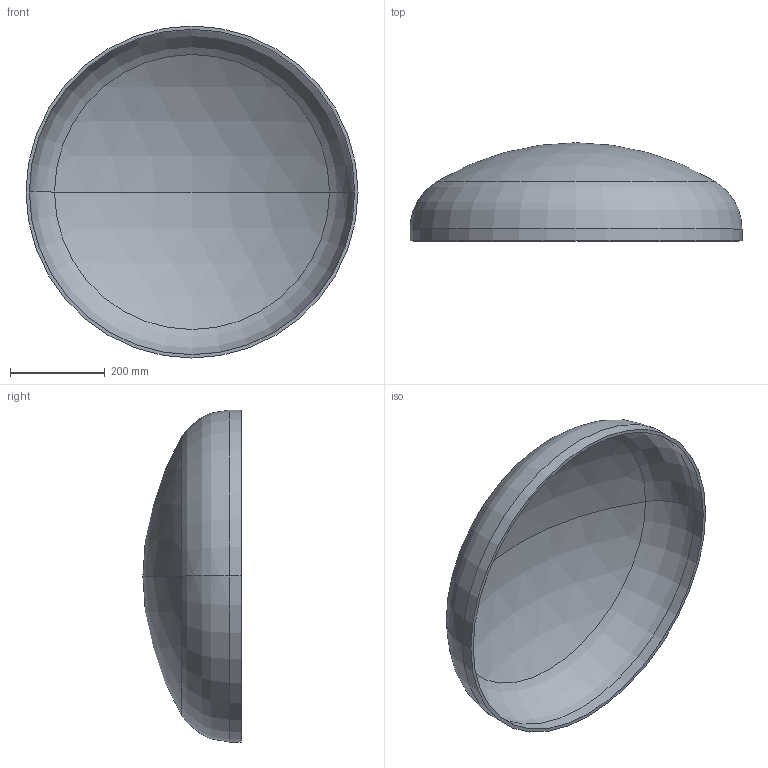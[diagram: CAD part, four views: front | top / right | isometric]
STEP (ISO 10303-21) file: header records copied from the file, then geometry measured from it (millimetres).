
FILE_DESCRIPTION (( 'STEP AP203' ), '1' );
FILE_NAME ('DIN 28013 Korbbogenform_-_Boden DIN 28013 - 700 x 25 - I - s=7.step', '2016-07-01T08:03:45', ( '' ), ( '' ), 'SwSTEP 2.0', 'SolidWorks 2013', '' );
FILE_SCHEMA (( 'CONFIG_CONTROL_DESIGN' ));
Length unit declared in the file: millimetre
Products named in the file (1): DIN 28013 Korbbogenform_-_Boden DIN 28013 - 700 x 25 - I - s=7
Bounding box: 700 x 207.02 x 700 mm (x, y, z)
Volume: 4077756.8 mm3; surface area: 1180415.5 mm2
Topology: 1 solids, 1 shells, 13 faces, 24 edges, 14 vertices
Faces by surface type: torus 4, cylinder 4, sphere 4, plane 1
Entity records: 407 total; most frequent: DIRECTION 72, CARTESIAN_POINT 52, ORIENTED_EDGE 48, AXIS2_PLACEMENT_3D 34, EDGE_CURVE 24, CIRCLE 20, EDGE_LOOP 14, VERTEX_POINT 14
